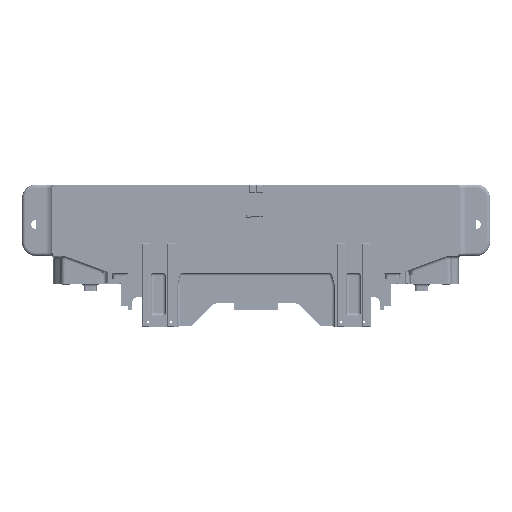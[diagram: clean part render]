
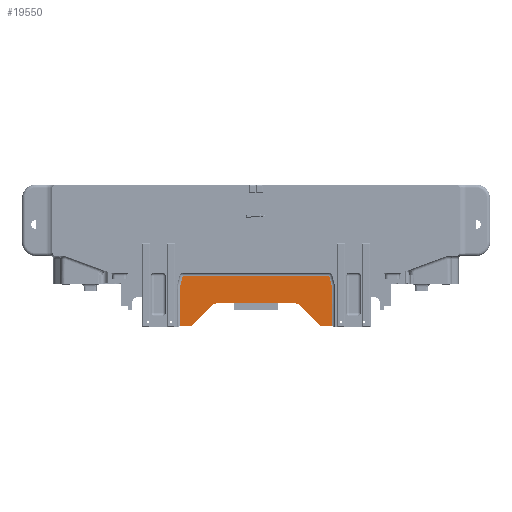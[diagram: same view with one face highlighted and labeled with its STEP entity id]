
A CAD part, left-side view. The second image highlights one B-rep face of the part: STEP entity #19550.
In plain terms, the highlighted planar face has unit normal (-1, 0, 0).
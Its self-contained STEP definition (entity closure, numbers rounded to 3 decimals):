
#14829=FACE_OUTER_BOUND('',#28793,.T.);
#19550=ADVANCED_FACE('',(#14829),#23287,.F.);
#23287=PLANE('',#105263);
#28793=EDGE_LOOP('',(#45038,#45039,#45040,#45041,#45042,#45043,#45044,#45045,
#45046,#45047,#45048,#45049));
#45038=ORIENTED_EDGE('',*,*,#72158,.F.);
#45039=ORIENTED_EDGE('',*,*,#72159,.T.);
#45040=ORIENTED_EDGE('',*,*,#72160,.T.);
#45041=ORIENTED_EDGE('',*,*,#72161,.T.);
#45042=ORIENTED_EDGE('',*,*,#72162,.T.);
#45043=ORIENTED_EDGE('',*,*,#72163,.T.);
#45044=ORIENTED_EDGE('',*,*,#72164,.F.);
#45045=ORIENTED_EDGE('',*,*,#72165,.T.);
#45046=ORIENTED_EDGE('',*,*,#72166,.T.);
#45047=ORIENTED_EDGE('',*,*,#72167,.F.);
#45048=ORIENTED_EDGE('',*,*,#72168,.T.);
#45049=ORIENTED_EDGE('',*,*,#72169,.T.);
#62011=VERTEX_POINT('',#163693);
#62012=VERTEX_POINT('',#163694);
#62013=VERTEX_POINT('',#163696);
#62014=VERTEX_POINT('',#163698);
#62015=VERTEX_POINT('',#163700);
#62016=VERTEX_POINT('',#163702);
#62017=VERTEX_POINT('',#163704);
#62018=VERTEX_POINT('',#163706);
#62019=VERTEX_POINT('',#163708);
#62020=VERTEX_POINT('',#163710);
#62021=VERTEX_POINT('',#163712);
#62022=VERTEX_POINT('',#163714);
#72158=EDGE_CURVE('',#62011,#62012,#91662,.T.);
#72159=EDGE_CURVE('',#62011,#62013,#91663,.T.);
#72160=EDGE_CURVE('',#62013,#62014,#91664,.T.);
#72161=EDGE_CURVE('',#62014,#62015,#91665,.T.);
#72162=EDGE_CURVE('',#62015,#62016,#91666,.T.);
#72163=EDGE_CURVE('',#62016,#62017,#91667,.T.);
#72164=EDGE_CURVE('',#62018,#62017,#91668,.T.);
#72165=EDGE_CURVE('',#62018,#62019,#91669,.T.);
#72166=EDGE_CURVE('',#62019,#62020,#82322,.T.);
#72167=EDGE_CURVE('',#62021,#62020,#91670,.T.);
#72168=EDGE_CURVE('',#62021,#62022,#82323,.T.);
#72169=EDGE_CURVE('',#62022,#62012,#91671,.T.);
#82322=CIRCLE('',#105261,50.);
#82323=CIRCLE('',#105262,50.);
#91662=LINE('',#163692,#97609);
#91663=LINE('',#163695,#97610);
#91664=LINE('',#163697,#97611);
#91665=LINE('',#163699,#97612);
#91666=LINE('',#163701,#97613);
#91667=LINE('',#163703,#97614);
#91668=LINE('',#163705,#97615);
#91669=LINE('',#163707,#97616);
#91670=LINE('',#163711,#97617);
#91671=LINE('',#163715,#97618);
#97609=VECTOR('',#124250,1.);
#97610=VECTOR('',#124251,1.);
#97611=VECTOR('',#124252,1.);
#97612=VECTOR('',#124253,1.);
#97613=VECTOR('',#124254,1.);
#97614=VECTOR('',#124255,1.);
#97615=VECTOR('',#124256,1.);
#97616=VECTOR('',#124257,1.);
#97617=VECTOR('',#124260,1.);
#97618=VECTOR('',#124263,1.);
#105261=AXIS2_PLACEMENT_3D('',#163709,#124258,#124259);
#105262=AXIS2_PLACEMENT_3D('',#163713,#124261,#124262);
#105263=AXIS2_PLACEMENT_3D('',#163716,#124264,#124265);
#124250=DIRECTION('',(0.,1.,0.));
#124251=DIRECTION('',(0.,0.,1.));
#124252=DIRECTION('',(0.,0.263,0.965));
#124253=DIRECTION('',(0.,1.,0.));
#124254=DIRECTION('',(0.,0.263,-0.965));
#124255=DIRECTION('',(0.,0.,-1.));
#124256=DIRECTION('',(0.,1.,0.));
#124257=DIRECTION('',(0.,-0.707,0.707));
#124258=DIRECTION('',(1.,0.,0.));
#124259=DIRECTION('',(0.,-1.,0.));
#124260=DIRECTION('',(0.,1.,0.));
#124261=DIRECTION('',(1.,0.,0.));
#124262=DIRECTION('',(0.,1.,0.));
#124263=DIRECTION('',(0.,-0.707,-0.707));
#124264=DIRECTION('',(1.,0.,0.));
#124265=DIRECTION('',(0.,1.,0.));
#163692=CARTESIAN_POINT('',(-700.,0.,-150.));
#163693=CARTESIAN_POINT('',(-700.,-360.,-150.));
#163694=CARTESIAN_POINT('',(-700.,-310.,-150.));
#163695=CARTESIAN_POINT('',(-700.,-360.,90.));
#163696=CARTESIAN_POINT('',(-700.,-360.,47.991));
#163697=CARTESIAN_POINT('',(-700.,-360.529,46.053));
#163698=CARTESIAN_POINT('',(-700.,-348.543,90.));
#163699=CARTESIAN_POINT('',(-700.,0.,90.));
#163700=CARTESIAN_POINT('',(-700.,348.543,90.));
#163701=CARTESIAN_POINT('',(-700.,360.529,46.053));
#163702=CARTESIAN_POINT('',(-700.,360.,47.991));
#163703=CARTESIAN_POINT('',(-700.,360.,90.));
#163704=CARTESIAN_POINT('',(-700.,360.,-150.));
#163705=CARTESIAN_POINT('',(-700.,0.,-150.));
#163706=CARTESIAN_POINT('',(-700.,310.,-150.));
#163707=CARTESIAN_POINT('',(-700.,200.,-40.));
#163708=CARTESIAN_POINT('',(-700.,214.645,-54.645));
#163709=CARTESIAN_POINT('',(-700.,179.289,-90.));
#163710=CARTESIAN_POINT('',(-700.,179.289,-40.));
#163711=CARTESIAN_POINT('',(-700.,-200.,-40.));
#163712=CARTESIAN_POINT('',(-700.,-179.289,-40.));
#163713=CARTESIAN_POINT('',(-700.,-179.289,-90.));
#163714=CARTESIAN_POINT('',(-700.,-214.645,-54.645));
#163715=CARTESIAN_POINT('',(-700.,-200.,-40.));
#163716=CARTESIAN_POINT('',(-700.,0.,90.));
